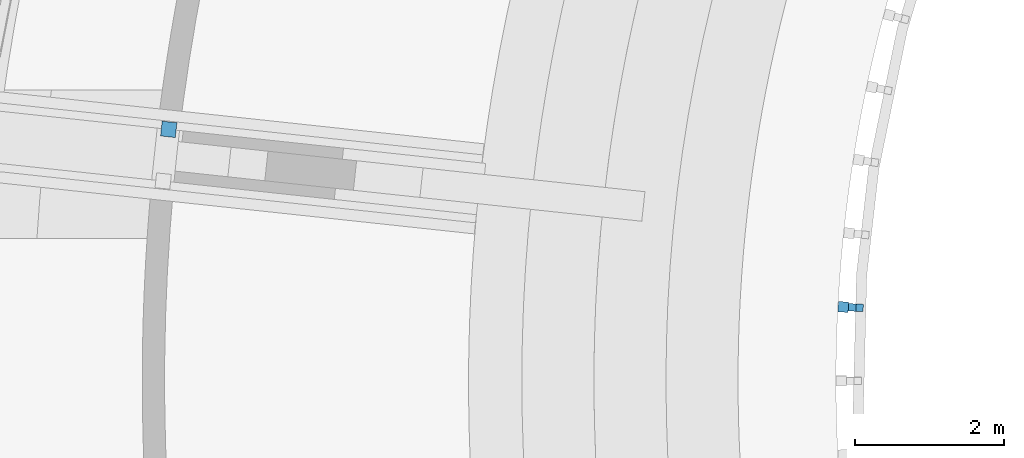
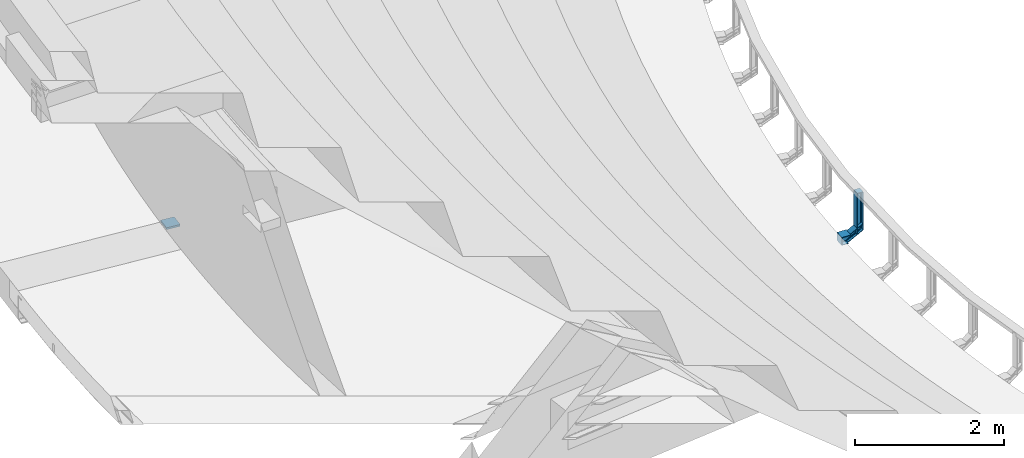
# One storey, part 42 of 68: 2 beams.
"""IFC2X3 building model written with IfcOpenShell, lengths in millimetres."""

from ifc_helpers import new_model, entity, si_unit, converted_unit, derived_unit, direction, frame, frame_2d, origin, place, context, subcontext, project, spatial, rectangle, extrude, faceted_brep, source, transform, mapped, material, type_object, type_shapes, element, save


model = new_model("IFC2X3")

# Units and contexts
model_context = context("Model", 3, precision=0.01, world=origin(), true_north=direction((6.12303176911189e-17, 1.0)))
body_context = subcontext(model_context, "Body", "Model", "MODEL_VIEW")
ifc_project = project(units=[si_unit("LENGTHUNIT", "METRE", prefix="MILLI"), si_unit("AREAUNIT", "SQUARE_METRE", prefix="MILLI"), si_unit("VOLUMEUNIT", "CUBIC_METRE"), converted_unit("PLANEANGLEUNIT", "DEGREE", entity("IfcRatioMeasure", 0.0174532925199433), si_unit("PLANEANGLEUNIT", "RADIAN"), dimensions=[0, 0, 0, 0, 0, 0, 0]), si_unit("MASSUNIT", "GRAM", prefix="KILO"), derived_unit("MASSDENSITYUNIT", [(si_unit("MASSUNIT", "GRAM", prefix="KILO"), 1), (si_unit("LENGTHUNIT", "METRE"), -3)]), derived_unit("MOMENTOFINERTIAUNIT", [(si_unit("LENGTHUNIT", "METRE"), 4)]), si_unit("TIMEUNIT", "SECOND"), si_unit("FREQUENCYUNIT", "HERTZ"), si_unit("THERMODYNAMICTEMPERATUREUNIT", "DEGREE_CELSIUS"), derived_unit("THERMALTRANSMITTANCEUNIT", [(si_unit("MASSUNIT", "GRAM", prefix="KILO"), 1), (si_unit("THERMODYNAMICTEMPERATUREUNIT", "KELVIN"), -1), (si_unit("TIMEUNIT", "SECOND"), -3)]), derived_unit("VOLUMETRICFLOWRATEUNIT", [(si_unit("LENGTHUNIT", "METRE"), 3), (si_unit("TIMEUNIT", "SECOND"), -1)]), si_unit("ELECTRICCURRENTUNIT", "AMPERE"), si_unit("ELECTRICVOLTAGEUNIT", "VOLT"), si_unit("POWERUNIT", "WATT"), si_unit("FORCEUNIT", "NEWTON", prefix="KILO"), si_unit("ILLUMINANCEUNIT", "LUX"), si_unit("LUMINOUSFLUXUNIT", "LUMEN"), si_unit("LUMINOUSINTENSITYUNIT", "CANDELA"), derived_unit("USERDEFINED", [(si_unit("MASSUNIT", "GRAM", prefix="KILO"), -1), (si_unit("LENGTHUNIT", "METRE"), -2), (si_unit("TIMEUNIT", "SECOND"), 3), (si_unit("LUMINOUSFLUXUNIT", "LUMEN"), 1)]), derived_unit("LINEARVELOCITYUNIT", [(si_unit("LENGTHUNIT", "METRE"), 1), (si_unit("TIMEUNIT", "SECOND"), -1)]), si_unit("PRESSUREUNIT", "PASCAL"), derived_unit("USERDEFINED", [(si_unit("LENGTHUNIT", "METRE"), -2), (si_unit("MASSUNIT", "GRAM", prefix="KILO"), 1), (si_unit("TIMEUNIT", "SECOND"), -2)]), derived_unit("LINEARFORCEUNIT", [(si_unit("MASSUNIT", "GRAM", prefix="KILO"), 1), (si_unit("LENGTHUNIT", "METRE"), 1), (si_unit("TIMEUNIT", "SECOND"), -2), (si_unit("LENGTHUNIT", "METRE"), -1)]), derived_unit("PLANARFORCEUNIT", [(si_unit("MASSUNIT", "GRAM", prefix="KILO"), 1), (si_unit("LENGTHUNIT", "METRE"), 1), (si_unit("TIMEUNIT", "SECOND"), -2), (si_unit("LENGTHUNIT", "METRE"), -2)])], contexts=[model_context])

# Site, building, storey
site_placement = place(None, origin())
site = spatial("IfcSite", under=ifc_project, at=site_placement, Name="Theater aan de Parade", CompositionType="ELEMENT")
building_placement = place(site_placement, origin())
building = spatial("IfcBuilding", under=site, at=building_placement, Name="Theater aan de Parade", CompositionType="ELEMENT")
storey_placement = place(building_placement, frame((0.0, 0.0, 8750.0)))
storey = spatial("IfcBuildingStorey", under=building, at=storey_placement, Name="02 tweede verdieping", CompositionType="ELEMENT", Elevation=8750.0)

# Beams
ifc_material_1 = material(Name="00_PBT_MAT_staal")
beam_type_1 = type_object("IfcBeamType", Name="28_PBT_SF_staal_strip:strip 200x30_opgelaste plaat", PredefinedType="NOTDEFINED")
beam_1_placement = place(storey_placement, frame((43966.7361101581, 35847.0288543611, 0.0), z_axis=(0.0, 0.0, 1.0), x_axis=(0.994276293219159, -0.106839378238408, 0.0)))
element("IfcBeam", 1, at=beam_1_placement, inside=storey, type_object=beam_type_1, material=ifc_material_1, Name="28_PBT_SF_staal_strip:strip 200x30_opgelaste plaat", ObjectType="28_PBT_SF_staal_strip:strip 200x30_opgelaste plaat", context=body_context, shape_type="SweptSolid", body=[
    extrude(rectangle(XDim=29.9999999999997, YDim=199.999999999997, at=frame_2d((0.0, 4.76063632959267e-12), x_axis=(1.0, 0.0))), frame((0.0, 0.0, -140.0), z_axis=(1.0, 0.0, 0.0), x_axis=(0.0, 0.0, -1.0)), (0.0, 0.0, 1.0), 200.000000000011),
])
ifc_material_2 = material(Name="00_PBT_MAT_staal_S355")
beam_type_2 = type_object("IfcBeamType", Name="28_PBT_SF_staal_baluster balkon:baluster HEA100", PredefinedType="BEAM", material=ifc_material_2)
shared_shape = source(origin(), body_context, "Body", "Brep", [
    faceted_brep([(50.0, -43.537813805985, 625.0), (50.0, 44.0, 625.0), (50.0, 44.0, 635.0), (50.0, -43.537813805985, 635.0), (-50.0, -43.537813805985, 625.0), (-50.0, -43.537813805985, 635.0), (-50.0, 44.0, 635.0), (-50.0, 44.0, 625.0)], [[[0, 1, 2, 3]], [[4, 5, 6, 7]], [[1, 0, 4, 7]], [[2, 1, 7, 6]], [[3, 2, 6, 5]], [[0, 3, 5, 4]]]),
    faceted_brep([(70.0, 278.0, -133.0), (70.0, 290.0, -133.0), (70.0, 290.0, 0.0), (70.0, 278.0, 0.0), (-70.0, 278.0, -133.0), (-70.0, 278.0, 0.0), (-70.0, 290.0, 0.0), (-70.0, 290.0, -133.0)], [[[0, 1, 2, 3]], [[4, 5, 6, 7]], [[1, 0, 4, 7]], [[2, 1, 7, 6]], [[3, 2, 6, 5]], [[0, 3, 5, 4]]]),
    faceted_brep([(14.7499999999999, 278.0, -124.5), (70.0, 278.0, -124.5), (70.0, 278.0, -133.0), (-70.0, 278.0, -133.0), (-70.0, 278.0, -124.500000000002), (-14.7500000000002, 278.0, -124.500000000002), (-11.6441714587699, 278.0, -124.091109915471), (-8.75000000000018, 278.0, -122.892304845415), (-6.26471862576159, 278.0, -120.98528137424), (-4.3576951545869, 278.0, -118.500000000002), (-3.15889008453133, 278.0, -115.605828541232), (-2.75000000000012, 278.0, -112.500000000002), (-2.75000000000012, 278.0, -20.500000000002), (-3.15889008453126, 278.0, -17.3941714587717), (-4.35769515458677, 278.0, -14.500000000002), (-6.26471862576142, 278.0, -12.0147186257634), (-8.74999999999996, 278.0, -10.1076951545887), (-11.6441714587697, 278.0, -8.90889008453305), (-14.7500000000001, 278.0, -8.50000000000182), (-70.0, 278.0, -8.50000000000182), (-70.0, 278.0, 0.0), (70.0, 278.0, 0.0), (70.0, 278.0, -8.50000000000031), (14.7499999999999, 278.0, -8.50000000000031), (11.6441714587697, 278.0, -8.90889008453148), (8.74999999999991, 278.0, -10.107695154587), (6.26471862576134, 278.0, -12.0147186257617), (4.35769515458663, 278.0, -14.5000000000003), (3.15889008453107, 278.0, -17.39417145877), (2.74999999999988, 278.0, -20.5000000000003), (2.74999999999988, 278.0, -112.5), (3.15889008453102, 278.0, -115.60582854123), (4.35769515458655, 278.0, -118.5), (6.26471862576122, 278.0, -120.985281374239), (8.74999999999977, 278.0, -122.892304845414), (11.6441714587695, 278.0, -124.091109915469), (70.0, 151.923048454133, 0.0), (70.0, 154.37480362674, -8.50000000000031), (70.0, 187.834050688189, -124.5), (70.0, 190.285805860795, -133.0), (14.7499999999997, 154.37480362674, -8.50000000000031), (14.7499999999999, 214.85290376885, -8.50000000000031), (-14.7500000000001, 214.852897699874, -8.50000000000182), (-14.7500000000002, 154.37480362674, -8.50000000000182), (-70.0, 154.37480362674, -8.50000000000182), (6.43965673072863, 216.327371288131, -11.8433150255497), (2.74999999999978, 217.521900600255, -20.5000000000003), (12.079748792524, 154.461585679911, -8.8008650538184), (9.5433951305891, 154.717580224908, -9.68837358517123), (7.26812237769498, 155.129950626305, -11.1180222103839), (5.36802221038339, 155.678018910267, -13.0181223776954), (3.05086505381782, 157.065893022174, -17.8297487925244), (2.74999999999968, 157.83610504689, -20.5000000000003), (3.9383735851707, 156.334302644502, -15.2933951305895), (2.74999999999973, 184.372749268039, -112.5), (3.93837358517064, 185.874551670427, -117.706604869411), (3.05086505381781, 185.142961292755, -115.170251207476), (5.36802221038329, 186.530835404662, -119.981877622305), (7.26812237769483, 187.078903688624, -121.881977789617), (9.54339513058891, 187.491274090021, -123.311626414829), (12.0797487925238, 187.747268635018, -124.199134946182), (14.7499999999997, 187.834050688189, -124.5), (-70.0, 187.83405068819, -124.500000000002), (-14.7500000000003, 187.83405068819, -124.500000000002), (-70.0, 190.285805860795, -133.0), (-70.0, 151.923048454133, 0.0), (-9.54339513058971, 187.491274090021, -123.311626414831), (-12.0797487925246, 187.747268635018, -124.199134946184), (-7.2681223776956, 187.078903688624, -121.881977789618), (-5.36802221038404, 186.530835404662, -119.981877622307), (-3.93837358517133, 185.874551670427, -117.706604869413), (-3.05086505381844, 185.142961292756, -115.170251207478), (-2.75000000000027, 184.37274926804, -112.500000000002), (-2.75000000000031, 157.83610504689, -20.500000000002), (-2.75000000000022, 217.521907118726, -20.5000000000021), (-6.43965718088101, 216.327373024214, -11.8433145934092), (-3.05086505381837, 157.065893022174, -17.8297487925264), (-3.93837358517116, 156.334302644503, -15.2933951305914), (-5.36802221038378, 155.678018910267, -13.0181223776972), (-7.2681223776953, 155.129950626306, -11.1180222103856), (-9.54339513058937, 154.717580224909, -9.68837358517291), (-12.0797487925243, 154.461585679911, -8.80086505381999)], [[[0, 1, 2, 3, 4, 5, 6, 7, 8, 9, 10, 11, 12, 13, 14, 15, 16, 17, 18, 19, 20, 21, 22, 23, 24, 25, 26, 27, 28, 29, 30, 31, 32, 33, 34, 35]], [[22, 21, 36, 37]], [[2, 1, 38, 39]], [[23, 22, 37, 40, 41]], [[19, 18, 42, 43, 44]], [[24, 45, 25]], [[25, 45, 26]], [[27, 45, 46]], [[41, 40, 47]], [[23, 41, 24]], [[27, 26, 45]], [[41, 47, 48]], [[45, 49, 50]], [[46, 29, 28]], [[48, 45, 41]], [[46, 28, 27]], [[51, 52, 46]], [[51, 46, 53]], [[45, 53, 46]], [[50, 53, 45]], [[48, 49, 45]], [[41, 45, 24]], [[30, 29, 46, 52, 54]], [[55, 32, 31]], [[56, 31, 30]], [[30, 54, 56]], [[32, 55, 57]], [[55, 31, 56]], [[57, 33, 32]], [[34, 33, 58]], [[35, 34, 59]], [[0, 35, 60]], [[34, 58, 59]], [[0, 60, 61]], [[60, 35, 59]], [[57, 58, 33]], [[1, 0, 61, 38]], [[5, 4, 62, 63]], [[3, 2, 39, 64]], [[4, 3, 64, 62]], [[20, 19, 44, 65]], [[66, 7, 6]], [[67, 6, 5]], [[5, 63, 67]], [[7, 66, 68]], [[66, 6, 67]], [[68, 8, 7]], [[9, 8, 69]], [[10, 9, 70]], [[11, 10, 71]], [[9, 69, 70]], [[11, 71, 72]], [[71, 10, 70]], [[68, 69, 8]], [[12, 11, 72, 73, 74]], [[74, 14, 13]], [[75, 15, 14]], [[17, 16, 75]], [[74, 73, 76]], [[16, 15, 75]], [[76, 77, 74]], [[75, 78, 79]], [[80, 81, 42]], [[77, 75, 74]], [[12, 74, 13]], [[75, 42, 17]], [[42, 18, 17]], [[42, 81, 43]], [[75, 80, 42]], [[80, 75, 79]], [[77, 78, 75]], [[75, 14, 74]], [[21, 20, 65, 36]], [[61, 60, 59, 58, 57, 55, 56, 54, 52, 51, 53, 50, 49, 48, 47, 40, 37, 36, 65, 44, 43, 81, 80, 79, 78, 77, 76, 73, 72, 71, 70, 69, 68, 66, 67, 63, 62, 64, 39, 38]]]),
    faceted_brep([(50.0, 155.119944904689, -11.0833333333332), (50.0, 151.923048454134, 0.0), (50.0, -48.0, 115.425625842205), (50.0, -48.0, 106.188021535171), (50.0, 190.285805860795, -133.0), (50.0, 187.08890941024, -121.916666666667), (50.0, -48.0, 13.8119784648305), (50.0, -48.0, 4.57437415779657), (14.4999999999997, 155.119944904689, -11.0833333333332), (14.4999999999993, -48.0, 106.188021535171), (14.4999999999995, 4.37555520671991, 75.9489806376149), (14.4999999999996, 56.7511250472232, 45.7099312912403), (-50.0, 155.119944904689, -11.0833333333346), (-14.5000000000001, 155.119944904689, -11.0833333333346), (-14.5000000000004, 56.7511361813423, 45.7099248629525), (-14.5000000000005, 4.37556274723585, 75.9489762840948), (-14.5000000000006, -48.0, 106.188021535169), (-50.0, -48.0, 106.188021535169), (12.1589161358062, 155.212086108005, -11.4027780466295), (6.13940978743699, 85.6560198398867, 25.105130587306), (9.9077988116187, 155.484968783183, -12.348836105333), (2.80086505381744, -48.0, 95.4149555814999), (2.49999999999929, -48.0, 92.3316150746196), (2.49999999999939, 4.37556701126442, 62.092567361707), (2.49999999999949, 55.164155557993, 32.7697620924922), (6.04197655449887, 10.2229142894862, 68.5459327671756), (2.49999999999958, 107.539722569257, 2.53071437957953), (2.49999999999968, 159.915289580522, -27.7083333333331), (2.73057663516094, 158.979764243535, -24.4649567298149), (7.83315720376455, 155.92810620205, -13.8851510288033), (11.8297487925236, -48.0, 105.840612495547), (3.41344560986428, 158.0801906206, -21.3462212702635), (4.52236465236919, 157.25113882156, -18.4719782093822), (7.01812237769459, -48.0, 103.164989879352), (5.11802221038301, -48.0, 100.970943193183), (3.68837358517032, -48.0, 98.3436845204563), (9.29339513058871, -48.0, 104.815805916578), (6.01471862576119, 156.524468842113, -15.9526830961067), (2.49999999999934, -48.0, 27.6683849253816), (2.49999999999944, 4.37556959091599, -2.57066427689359), (2.49999999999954, 56.7511354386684, -32.8097113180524), (2.49999999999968, 129.917998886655, -75.052619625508), (2.49999999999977, 182.293564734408, -105.291666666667), (4.52236465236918, 184.957715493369, -114.528021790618), (6.30956465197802, 103.743785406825, -70.0679088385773), (6.01471862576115, 185.684385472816, -117.047316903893), (14.4999999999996, 134.713341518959, -91.6776184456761), (9.90779881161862, 186.723885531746, -120.651163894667), (7.83315720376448, 186.280748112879, -119.114848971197), (12.1589161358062, 186.996768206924, -121.597221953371), (14.4999999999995, 69.5444547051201, -54.0523441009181), (5.87838992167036, 26.3899882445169, -24.9186641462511), (14.4999999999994, 4.3755678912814, -16.4270697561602), (5.11802221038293, -48.0, 19.0290568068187), (3.4134456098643, 184.128663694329, -111.653778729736), (2.80086505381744, -48.0, 24.5850444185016), (3.68837358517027, -48.0, 21.6563154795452), (14.4999999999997, 187.08890941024, -121.916666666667), (7.01812237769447, -48.0, 16.8350101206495), (9.29339513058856, -48.0, 15.1841940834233), (2.73057663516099, 183.229090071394, -108.535043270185), (14.4999999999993, -48.0, 13.8119784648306), (11.8297487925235, -48.0, 14.1593875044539), (-50.0, 187.088909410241, -121.916666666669), (-50.0, -48.0, 13.8119784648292), (-14.5000000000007, -48.0, 13.8119784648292), (-14.5000000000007, 4.37556899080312, -16.4270703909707), (-14.5000000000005, 69.5444561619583, -54.0523449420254), (-14.5000000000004, 134.713343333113, -91.6776194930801), (-14.5000000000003, 187.088909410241, -121.916666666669), (-50.0, 190.285805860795, -133.0), (-50.0, -48.0, 4.57437415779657), (-50.0, 151.923048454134, 0.0), (-50.0, -48.0, 115.425625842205), (-6.30956482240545, 103.743788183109, -70.0679106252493), (-3.41344560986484, 184.128663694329, -111.653778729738), (-4.52236465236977, 184.95771549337, -114.52802179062), (-2.50000000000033, 129.917999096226, -75.0526197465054), (-9.29339513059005, -48.0, 15.1841940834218), (-7.01812237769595, -48.0, 16.835010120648), (-5.87838988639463, 26.389986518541, -24.9186631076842), (-7.8331572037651, 186.28074811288, -119.114848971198), (-6.01471862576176, 185.684385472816, -117.047316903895), (-11.829748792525, -48.0, 14.1593875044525), (-5.11802221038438, -48.0, 19.0290568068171), (-2.50000000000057, 4.37557526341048, -2.57066755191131), (-2.50000000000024, 182.293564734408, -105.291666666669), (-2.7305766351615, 183.229090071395, -108.535043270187), (-9.90779881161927, 186.723885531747, -120.651163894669), (-12.1589161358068, 186.996768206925, -121.597221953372), (-2.80086505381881, -48.0, 24.5850444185), (-2.50000000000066, -48.0, 27.6683849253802), (-2.50000000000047, 56.7511409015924, -32.8097144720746), (-3.68837358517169, -48.0, 21.6563154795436), (-2.50000000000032, 159.915289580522, -27.708333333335), (-2.50000000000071, -48.0, 92.3316150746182), (-2.50000000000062, 4.37556371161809, 62.0925692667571), (-2.50000000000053, 55.1641543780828, 32.7697627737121), (-2.50000000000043, 107.539718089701, 2.53071696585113), (-2.73057663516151, 158.979764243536, -24.464956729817), (-11.8297487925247, -48.0, 105.840612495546), (-6.01471862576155, 156.524468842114, -15.9526830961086), (-6.13940988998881, 85.6560228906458, 25.1051289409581), (-7.83315720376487, 155.92810620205, -13.885151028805), (-5.11802221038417, -48.0, 100.970943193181), (-7.0181223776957, -48.0, 103.16498987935), (-6.04197656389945, 10.2229155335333, 68.5459320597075), (-9.90779881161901, 155.484968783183, -12.3488361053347), (-4.52236465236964, 157.25113882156, -18.4719782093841), (-2.80086505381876, -48.0, 95.4149555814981), (-3.68837358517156, -48.0, 98.3436845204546), (-12.1589161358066, 155.212086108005, -11.402778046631), (-3.41344560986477, 158.080190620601, -21.3462212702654), (-9.29339513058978, -48.0, 104.815805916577)], [[[0, 1, 2, 3]], [[4, 5, 6, 7]], [[8, 0, 3, 9, 10, 11]], [[12, 13, 14, 15, 16, 17]], [[18, 19, 20]], [[21, 22, 23]], [[23, 24, 25]], [[26, 27, 28]], [[29, 20, 19]], [[26, 19, 24]], [[10, 25, 11]], [[8, 11, 18]], [[18, 11, 19]], [[11, 25, 19]], [[19, 25, 24]], [[10, 9, 30]], [[31, 32, 26]], [[33, 34, 25]], [[35, 25, 34]], [[23, 25, 35]], [[33, 25, 36]], [[28, 31, 26]], [[37, 19, 32]], [[36, 10, 30]], [[19, 26, 32]], [[21, 23, 35]], [[25, 10, 36]], [[29, 19, 37]], [[27, 26, 24, 23, 22, 38, 39, 40, 41, 42]], [[43, 44, 45]], [[46, 47, 48]], [[49, 47, 46]], [[50, 51, 52]], [[51, 39, 53]], [[44, 43, 54]], [[39, 38, 55]], [[56, 39, 55]], [[46, 57, 49]], [[44, 41, 40]], [[51, 53, 58]], [[44, 48, 45]], [[58, 59, 51]], [[44, 54, 41]], [[60, 41, 54]], [[51, 44, 40]], [[61, 52, 62]], [[51, 40, 39]], [[50, 46, 44]], [[46, 48, 44]], [[53, 39, 56]], [[60, 42, 41]], [[62, 52, 59]], [[50, 44, 51]], [[59, 52, 51]], [[5, 57, 46, 50, 52, 61, 6]], [[63, 64, 65, 66, 67, 68, 69]], [[70, 4, 7, 71]], [[63, 70, 71, 64]], [[72, 12, 17, 73]], [[74, 68, 67]], [[74, 75, 76]], [[75, 74, 77]], [[78, 79, 80]], [[81, 74, 82]], [[78, 66, 83]], [[84, 85, 80]], [[77, 86, 87]], [[68, 81, 88]], [[89, 68, 88]], [[90, 91, 85]], [[80, 74, 67]], [[66, 78, 80]], [[74, 80, 92]], [[66, 65, 83]], [[92, 80, 85]], [[90, 85, 93]], [[85, 84, 93]], [[81, 68, 74]], [[79, 84, 80]], [[68, 89, 69]], [[76, 82, 74]], [[92, 77, 74]], [[75, 77, 87]], [[66, 80, 67]], [[94, 86, 77, 92, 85, 91, 95, 96, 97, 98]], [[98, 99, 94]], [[100, 16, 15]], [[101, 102, 103]], [[104, 105, 106]], [[103, 102, 107]], [[108, 102, 101]], [[102, 106, 14]], [[102, 97, 106]], [[108, 98, 102]], [[96, 109, 110]], [[102, 111, 107]], [[96, 106, 97]], [[104, 106, 110]], [[99, 98, 112]], [[106, 15, 14]], [[108, 112, 98]], [[100, 15, 113]], [[111, 102, 14]], [[110, 106, 96]], [[98, 97, 102]], [[15, 106, 113]], [[14, 13, 111]], [[113, 106, 105]], [[96, 95, 109]], [[1, 72, 73, 2]], [[61, 62, 59, 58, 53, 56, 55, 38, 22, 21, 35, 34, 33, 36, 30, 9, 3, 2, 73, 17, 16, 100, 113, 105, 104, 110, 109, 95, 91, 90, 93, 84, 79, 78, 83, 65, 64, 71, 7, 6]], [[8, 18, 20, 29, 37, 32, 31, 28, 27, 42, 60, 54, 43, 45, 48, 47, 49, 57, 5, 4, 70, 63, 69, 89, 88, 81, 82, 76, 75, 87, 86, 94, 99, 112, 108, 101, 103, 107, 111, 13, 12, 72, 1, 0]]]),
    faceted_brep([(14.4999999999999, 40.0, 625.0), (50.0, 40.0, 625.0), (50.0, 48.0, 625.0), (-50.0, 48.0, 625.0), (-50.0, 40.0, 625.0), (-14.5000000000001, 40.0, 625.0), (-11.3941714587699, 39.5911099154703, 625.0), (-8.50000000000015, 38.3923048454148, 625.0), (-6.01471862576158, 36.4852813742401, 625.0), (-4.10769515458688, 34.0, 625.0), (-2.90889008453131, 31.1058285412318, 625.0), (-2.50000000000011, 28.0, 625.0), (-2.50000000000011, -28.0, 625.0), (-2.90889008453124, -31.1058285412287, 625.0), (-4.10769515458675, -34.0, 625.0), (-6.01471862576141, -36.4852813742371, 625.0), (-8.49999999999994, -38.3923048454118, 625.0), (-11.3941714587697, -39.5911099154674, 625.0), (-14.5000000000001, -40.0, 625.0), (-50.0, -40.0, 625.0), (-50.0, -48.0, 625.0), (50.0, -48.0, 625.0), (50.0, -40.0, 625.0), (14.4999999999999, -40.0, 625.0), (11.3941714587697, -39.5911099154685, 625.0), (8.49999999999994, -38.392304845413, 625.0), (6.01471862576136, -36.4852813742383, 625.0), (4.10769515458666, -34.0, 625.0), (2.90889008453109, -31.10582854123, 625.0), (2.49999999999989, -28.0, 625.0), (2.49999999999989, 28.0, 625.0), (2.90889008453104, 31.1058285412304, 625.0), (4.10769515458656, 34.0, 625.0), (6.01471862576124, 36.4852813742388, 625.0), (8.4999999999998, 38.3923048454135, 625.0), (11.3941714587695, 39.5911099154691, 625.0), (50.0, -48.0, 165.0), (50.0, -48.0, 4.57437415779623), (50.0, -40.0, -0.0444279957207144), (50.0, 40.0, -46.2324495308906), (50.0, 48.0, -50.8512516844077), (14.4999999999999, -40.0, -0.0444279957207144), (14.4999999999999, -40.0, 60.433662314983), (14.4999999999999, -40.0, 156.216673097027), (14.4999999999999, -40.0, 234.347235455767), (14.4999999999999, -40.0, 312.477797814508), (14.4999999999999, -40.0, 390.608336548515), (14.4999999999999, -40.0, 468.738898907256), (14.4999999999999, -40.0, 564.521909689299), (-14.4999999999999, -40.0, 564.521898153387), (-14.4999999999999, -40.0, 468.738893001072), (-14.4999999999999, -40.0, 390.608339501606), (-14.4999999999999, -40.0, 312.477786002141), (-14.5, -40.0, 234.347232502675), (-14.5, -40.0, 156.21667900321), (-14.5, -40.0, 60.4336544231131), (-14.5, -40.0, -0.0444279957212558), (-50.0, -40.0, -0.0444279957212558), (6.01471822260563, -36.4852809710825, 534.282851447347), (6.38111782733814, -36.8365011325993, 422.595542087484), (2.49999999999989, -28.0, 429.969869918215), (2.49999999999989, -28.0, 504.043806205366), (7.01812237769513, -37.3819777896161, -1.55594382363), (5.87838991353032, -36.3467262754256, 83.7445110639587), (9.29339513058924, -38.8116264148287, -0.730535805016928), (2.49999999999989, -28.0, 564.521903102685), (5.11802221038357, -35.4818776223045, -2.65296716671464), (11.8297487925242, -39.6991349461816, -0.21813251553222), (5.33717277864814, -35.7487158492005, 157.721305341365), (6.03175640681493, -36.5022850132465, 273.412504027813), (2.49999999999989, -28.0, 113.983554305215), (2.80086505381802, -30.6702512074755, -5.43096097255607), (2.49999999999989, -28.0, -6.97263122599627), (2.49999999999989, -28.0, 53.5054574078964), (6.45584074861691, -36.9045775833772, 351.543056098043), (3.68837358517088, -33.2066048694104, -3.96659650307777), (2.49999999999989, -28.0, 174.461651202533), (2.49999999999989, -28.0, 234.939748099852), (2.49999999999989, -28.0, 332.454809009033), (2.49999999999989, 28.0, -39.3042463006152), (2.49999999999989, 28.0, 21.173847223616), (2.49999999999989, 28.0, 81.6519407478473), (2.49999999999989, 28.0, 171.891681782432), (2.49999999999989, 28.0, 277.489637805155), (2.49999999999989, 28.0, 383.087609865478), (2.49999999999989, 28.0, 443.56570338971), (2.49999999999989, 28.0, 504.043796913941), (2.49999999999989, 28.0, 564.521906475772), (14.4999999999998, 40.0, 564.521898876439), (6.01471890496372, 36.4852816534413, 534.282850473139), (14.4999999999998, 40.0, 457.191892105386), (14.4999999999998, 40.0, 74.7237437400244), (5.87838987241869, 36.3467262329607, 51.4128968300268), (14.4999999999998, 40.0, 14.245651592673), (7.12980766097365, 37.4699664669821, 128.3887480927), (14.4999999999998, 40.0, 182.05375948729), (5.68142979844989, 36.138354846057, 331.335798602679), (14.4999999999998, 40.0, 289.383775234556), (14.4999999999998, 40.0, 373.287833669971), (6.48410362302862, 36.9300282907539, 264.631830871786), (3.68837358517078, 33.2066048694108, -42.3102810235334), (5.11802221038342, 35.481877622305, -43.6239103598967), (11.8297487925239, 39.6991349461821, -46.058745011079), (14.4999999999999, 40.0, -46.2324495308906), (9.29339513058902, 38.8116264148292, -45.5463417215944), (7.01812237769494, 37.3819777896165, -44.7209337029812), (5.85986411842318, 36.3275477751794, 197.731198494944), (5.34384824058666, 35.7566026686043, 460.437179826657), (2.80086505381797, 30.6702512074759, -40.8459165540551), (6.59968170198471, 37.0324399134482, 396.193688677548), (-50.0, 40.0, -46.2324495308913), (-14.5000000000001, 40.0, -46.2324495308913), (-14.5000000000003, 40.0, 14.245637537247), (-14.5000000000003, 40.0, 121.575655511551), (-14.5000000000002, 40.0, 205.479712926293), (-14.5000000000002, 40.0, 289.383770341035), (-14.5000000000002, 40.0, 373.287827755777), (-14.5000000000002, 40.0, 457.191885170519), (-14.5000000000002, 40.0, 564.521903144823), (-50.0, 48.0, -50.8512516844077), (-50.0, -48.0, 4.57437415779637), (-50.0, -48.0, 165.0), (-6.01471845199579, 36.4852812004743, 534.282853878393), (-5.34384807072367, 35.7566024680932, 460.437182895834), (-2.5000000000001, 28.0, 504.043796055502), (-2.5000000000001, 28.0, 564.521888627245), (-7.01812237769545, 37.3819777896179, -44.720933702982), (-9.29339513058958, 38.8116264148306, -45.5463417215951), (-5.68142973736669, 36.1383547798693, 331.33579885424), (-6.3722320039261, 36.8283286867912, 262.824412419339), (-2.5000000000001, 28.0, 383.087610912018), (-6.59968165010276, 37.0324398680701, 396.193689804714), (-11.8297487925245, 39.6991349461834, -46.0587450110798), (-6.18948395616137, 36.6565191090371, 51.4128959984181), (-5.11802221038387, 35.4818776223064, -43.6239103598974), (-3.68837358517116, 33.2066048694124, -42.3102810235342), (-2.80086505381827, 30.6702512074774, -40.8459165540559), (-2.5000000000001, 28.0, 21.1738462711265), (-2.5000000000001, 28.0, 81.6519388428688), (-5.3518166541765, 35.7659990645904, 125.002033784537), (-2.5000000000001, 28.0, -39.3042463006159), (-2.5000000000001, 28.0, 277.489637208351), (-2.5000000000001, 28.0, 443.56570348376), (-2.5000000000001, 28.0, 171.891682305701), (-5.88018165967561, 36.3485766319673, 194.135386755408), (-2.50000000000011, -28.0, -6.97263122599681), (-2.50000000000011, -28.0, 53.5054568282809), (-2.50000000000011, -28.0, 113.983561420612), (-2.50000000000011, -28.0, 174.461666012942), (-2.50000000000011, -28.0, 234.93975406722), (-2.50000000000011, -28.0, 332.454811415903), (-2.50000000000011, -28.0, 429.969885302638), (-2.50000000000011, -28.0, 504.043823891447), (-2.50000000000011, -28.0, 564.521911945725), (-9.29339513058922, -38.8116264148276, -0.730535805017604), (-5.8783899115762, -36.3467262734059, 83.7445122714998), (-5.33717271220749, -35.7487157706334, 157.721307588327), (-6.0147187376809, -36.4852814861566, 534.282853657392), (-6.45584072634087, -36.9045775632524, 351.543059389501), (-6.38111797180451, -36.8365012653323, 422.595548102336), (-2.80086505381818, -30.6702512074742, -5.43096097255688), (-3.688373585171, -33.2066048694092, -3.96659650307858), (-5.11802221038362, -35.4818776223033, -2.65296716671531), (-7.01812237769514, -37.3819777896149, -1.55594382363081), (-6.03175635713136, -36.5022849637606, 273.412506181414), (-11.8297487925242, -39.6991349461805, -0.218132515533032)], [[[0, 1, 2, 3, 4, 5, 6, 7, 8, 9, 10, 11, 12, 13, 14, 15, 16, 17, 18, 19, 20, 21, 22, 23, 24, 25, 26, 27, 28, 29, 30, 31, 32, 33, 34, 35]], [[22, 21, 36, 37, 38]], [[2, 1, 39, 40]], [[23, 22, 38, 41, 42, 43, 44, 45, 46, 47, 48]], [[19, 18, 49, 50, 51, 52, 53, 54, 55, 56, 57]], [[58, 26, 25]], [[26, 58, 27]], [[48, 47, 58]], [[59, 60, 61]], [[62, 63, 64]], [[28, 27, 65]], [[63, 62, 66]], [[42, 41, 67]], [[68, 69, 44]], [[63, 70, 68]], [[58, 61, 65]], [[42, 63, 43]], [[68, 43, 63]], [[64, 42, 67]], [[24, 23, 48]], [[71, 72, 73]], [[25, 48, 58]], [[69, 74, 45]], [[45, 74, 46]], [[65, 27, 58]], [[24, 48, 25]], [[71, 73, 75]], [[64, 63, 42]], [[70, 63, 73]], [[73, 66, 75]], [[58, 59, 61]], [[66, 73, 63]], [[65, 29, 28]], [[44, 69, 45]], [[76, 77, 68, 70]], [[44, 43, 68]], [[77, 78, 69]], [[78, 60, 74]], [[77, 69, 68]], [[59, 46, 74]], [[59, 74, 60]], [[78, 74, 69]], [[59, 47, 46]], [[47, 59, 58]], [[30, 29, 65, 61, 60, 78, 77, 76, 70, 73, 72, 79, 80, 81, 82, 83, 84, 85, 86, 87]], [[34, 88, 35]], [[89, 90, 88]], [[91, 92, 93]], [[33, 89, 34]], [[81, 80, 92]], [[94, 91, 95]], [[32, 89, 33]], [[96, 97, 98]], [[97, 96, 99]], [[100, 101, 92]], [[87, 86, 89]], [[31, 87, 32]], [[100, 92, 80]], [[102, 103, 93]], [[102, 93, 104]], [[32, 87, 89]], [[101, 105, 92]], [[93, 105, 104]], [[106, 95, 99]], [[88, 34, 89]], [[107, 89, 86]], [[88, 0, 35]], [[80, 108, 100]], [[80, 79, 108]], [[105, 93, 92]], [[31, 30, 87]], [[106, 94, 95]], [[94, 82, 81]], [[90, 89, 107]], [[92, 94, 81]], [[91, 94, 92]], [[82, 94, 106]], [[109, 98, 90]], [[107, 85, 109]], [[84, 109, 85]], [[109, 96, 98]], [[96, 84, 83]], [[106, 83, 82]], [[99, 96, 83]], [[97, 99, 95]], [[106, 99, 83]], [[96, 109, 84]], [[107, 86, 85]], [[107, 109, 90]], [[1, 0, 88, 90, 98, 97, 95, 91, 93, 103, 39]], [[5, 4, 110, 111, 112, 113, 114, 115, 116, 117, 118]], [[3, 2, 40, 119]], [[4, 3, 119, 110]], [[20, 19, 57, 120, 121]], [[8, 7, 122]], [[7, 118, 122]], [[123, 124, 122]], [[124, 125, 122]], [[126, 112, 127]], [[6, 5, 118]], [[6, 118, 7]], [[123, 122, 117]], [[128, 115, 129]], [[128, 130, 131]], [[112, 111, 132]], [[133, 126, 134]], [[8, 122, 9]], [[133, 113, 112]], [[133, 134, 135]], [[136, 137, 135]], [[118, 117, 122]], [[135, 137, 133]], [[138, 139, 133]], [[138, 133, 137]], [[122, 125, 9]], [[137, 136, 140]], [[127, 112, 132]], [[125, 11, 10]], [[112, 126, 133]], [[10, 9, 125]], [[113, 133, 139]], [[128, 141, 130]], [[142, 124, 123]], [[123, 117, 131]], [[115, 128, 116]], [[116, 128, 131]], [[139, 138, 143]], [[144, 114, 113]], [[113, 139, 144]], [[143, 144, 139]], [[144, 141, 129]], [[115, 114, 129]], [[144, 143, 141]], [[128, 129, 141]], [[144, 129, 114]], [[116, 131, 117]], [[130, 142, 131]], [[142, 123, 131]], [[11, 125, 124, 142, 130, 141, 143, 138, 137, 140, 145, 146, 147, 148, 149, 150, 151, 152, 153, 12]], [[49, 17, 16]], [[154, 55, 155]], [[156, 147, 155]], [[157, 153, 152]], [[14, 157, 15]], [[157, 16, 15]], [[158, 51, 159]], [[157, 50, 49]], [[160, 161, 146]], [[156, 155, 54]], [[49, 18, 17]], [[13, 153, 14]], [[12, 153, 13]], [[155, 162, 163]], [[151, 158, 159]], [[14, 153, 157]], [[146, 145, 160]], [[163, 154, 155]], [[155, 147, 146]], [[146, 162, 155]], [[164, 158, 150]], [[165, 56, 55]], [[54, 155, 55]], [[49, 16, 157]], [[161, 162, 146]], [[165, 55, 154]], [[159, 50, 157]], [[152, 159, 157]], [[148, 147, 156, 149]], [[149, 156, 164]], [[53, 52, 164]], [[156, 54, 53]], [[53, 164, 156]], [[51, 158, 52]], [[149, 164, 150]], [[52, 158, 164]], [[150, 158, 151]], [[152, 151, 159]], [[159, 51, 50]], [[21, 20, 121, 120, 37, 36]], [[103, 102, 104, 105, 101, 100, 108, 79, 72, 71, 75, 66, 62, 64, 67, 41, 38, 37, 120, 57, 56, 165, 154, 163, 162, 161, 160, 145, 140, 136, 135, 134, 126, 127, 132, 111, 110, 119, 40, 39]]]),
])
type_shapes(beam_type_2, [shared_shape])
beam_2_placement = place(storey_placement, frame((53367.6522538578, 33433.6525132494, -2040.0), z_axis=(0.0, 0.0, 1.0), x_axis=(0.0519957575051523, 0.998647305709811, 0.0)))
element("IfcBeam", 2, at=beam_2_placement, inside=storey, type_object=beam_type_2, material=ifc_material_2, Name="28_PBT_SF_staal_baluster balkon:baluster HEA100", ObjectType="28_PBT_SF_staal_baluster balkon:baluster HEA100", context=body_context, shape_type="MappedRepresentation", body=[
    mapped(shared_shape, transform((0.0, 0.0, 0.0), scale=1.0)),
])

save(model, "model.ifc")
